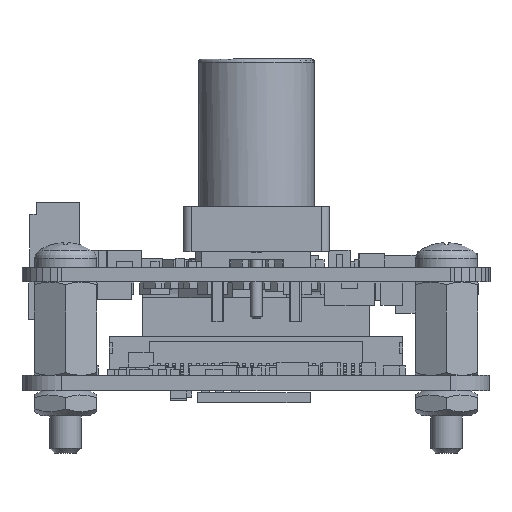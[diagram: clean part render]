
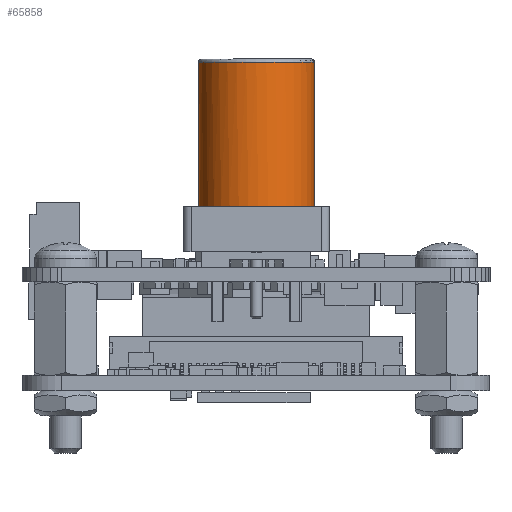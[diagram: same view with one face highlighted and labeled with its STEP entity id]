
A CAD part, front view. The second image highlights one B-rep face of the part: STEP entity #65858.
In plain terms, the highlighted cylindrical face has radius 3.725 mm (diameter 7.45 mm), a full revolution.
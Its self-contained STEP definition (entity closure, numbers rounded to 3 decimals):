
#10635=LINE('',#102219,#18708);
#10636=LINE('',#102222,#18709);
#18708=VECTOR('',#84398,1.);
#18709=VECTOR('',#84401,1.);
#22645=CYLINDRICAL_SURFACE('',#69783,3.725);
#23099=FACE_BOUND('',#29659,.T.);
#26023=FACE_OUTER_BOUND('',#29658,.T.);
#29658=EDGE_LOOP('',(#60941,#60942,#60943,#60944));
#29659=EDGE_LOOP('',(#60945));
#30535=CIRCLE('',#69784,3.725);
#30536=CIRCLE('',#69785,3.725);
#30537=CIRCLE('',#69786,3.725);
#35839=VERTEX_POINT('',#102215);
#35840=VERTEX_POINT('',#102216);
#35841=VERTEX_POINT('',#102218);
#35842=VERTEX_POINT('',#102220);
#35843=VERTEX_POINT('',#102223);
#44314=EDGE_CURVE('',#35839,#35840,#30535,.T.);
#44315=EDGE_CURVE('',#35840,#35841,#10635,.T.);
#44316=EDGE_CURVE('',#35841,#35842,#30536,.T.);
#44317=EDGE_CURVE('',#35842,#35839,#10636,.T.);
#44318=EDGE_CURVE('',#35843,#35843,#30537,.T.);
#60941=ORIENTED_EDGE('',*,*,#44314,.T.);
#60942=ORIENTED_EDGE('',*,*,#44315,.T.);
#60943=ORIENTED_EDGE('',*,*,#44316,.T.);
#60944=ORIENTED_EDGE('',*,*,#44317,.T.);
#60945=ORIENTED_EDGE('',*,*,#44318,.T.);
#65858=ADVANCED_FACE('',(#26023,#23099),#22645,.T.);
#69783=AXIS2_PLACEMENT_3D('',#102214,#84394,#84395);
#69784=AXIS2_PLACEMENT_3D('',#102217,#84396,#84397);
#69785=AXIS2_PLACEMENT_3D('',#102221,#84399,#84400);
#69786=AXIS2_PLACEMENT_3D('',#102224,#84402,#84403);
#84394=DIRECTION('center_axis',(0.,0.,1.));
#84395=DIRECTION('ref_axis',(1.,0.,0.));
#84396=DIRECTION('center_axis',(0.,0.,1.));
#84397=DIRECTION('ref_axis',(1.,0.,0.));
#84398=DIRECTION('',(0.,0.,1.));
#84399=DIRECTION('center_axis',(0.,0.,1.));
#84400=DIRECTION('ref_axis',(1.,0.,0.));
#84401=DIRECTION('',(0.,0.,-1.));
#84402=DIRECTION('center_axis',(0.,0.,-1.));
#84403=DIRECTION('ref_axis',(1.,0.,0.));
#102214=CARTESIAN_POINT('Origin',(15.024,5.75,3.913));
#102215=CARTESIAN_POINT('',(14.049,9.345,3.913));
#102216=CARTESIAN_POINT('',(15.999,9.345,3.914));
#102217=CARTESIAN_POINT('Origin',(15.024,5.75,3.913));
#102218=CARTESIAN_POINT('',(15.997,9.345,8.864));
#102219=CARTESIAN_POINT('',(15.999,9.345,3.914));
#102220=CARTESIAN_POINT('',(14.047,9.345,8.863));
#102221=CARTESIAN_POINT('Origin',(15.022,5.75,8.863));
#102222=CARTESIAN_POINT('',(14.049,9.345,3.913));
#102223=CARTESIAN_POINT('',(18.746,5.75,13.215));
#102224=CARTESIAN_POINT('Origin',(15.021,5.75,13.213));
